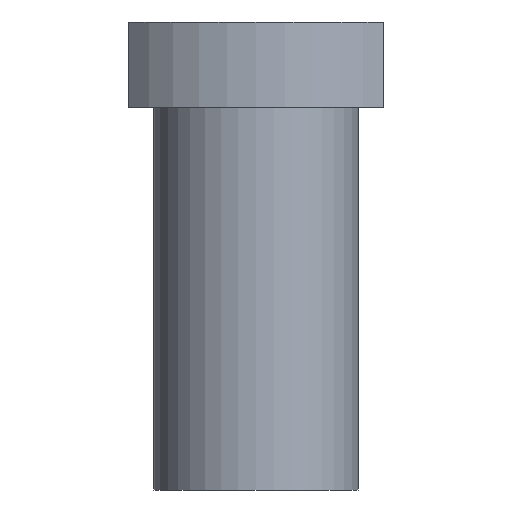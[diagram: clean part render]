
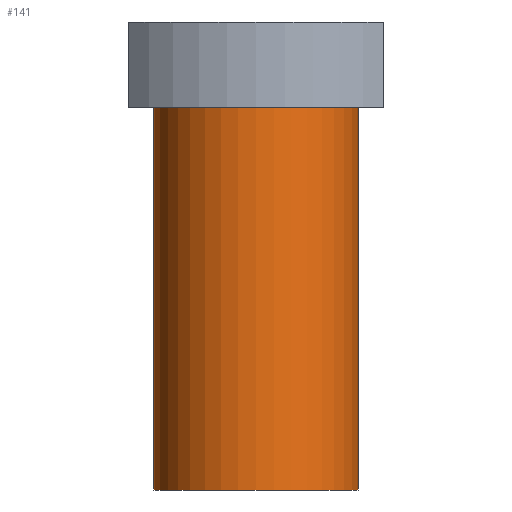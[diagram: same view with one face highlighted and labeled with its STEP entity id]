
A CAD part, front view. The second image highlights one B-rep face of the part: STEP entity #141.
In plain terms, the highlighted cylindrical face has radius 12 mm (diameter 24 mm), a full revolution.
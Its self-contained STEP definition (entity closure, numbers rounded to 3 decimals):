
#21 = EDGE_CURVE('',#22,#24,#26,.T.);
#22 = VERTEX_POINT('',#23);
#23 = CARTESIAN_POINT('',(0.,12.,-32.5));
#24 = VERTEX_POINT('',#25);
#25 = CARTESIAN_POINT('',(12.,0.,-32.5));
#26 = SURFACE_CURVE('',#27,(#32,#44),.PCURVE_S1.);
#27 = CIRCLE('',#28,12.);
#28 = AXIS2_PLACEMENT_3D('',#29,#30,#31);
#29 = CARTESIAN_POINT('',(0.,0.,-32.5));
#30 = DIRECTION('',(0.,0.,-1.));
#31 = DIRECTION('',(0.,1.,0.));
#32 = PCURVE('',#33,#38);
#33 = PLANE('',#34);
#34 = AXIS2_PLACEMENT_3D('',#35,#36,#37);
#35 = CARTESIAN_POINT('',(0.,0.,-32.5));
#36 = DIRECTION('',(0.,0.,-1.));
#37 = DIRECTION('',(-1.,0.,0.));
#38 = DEFINITIONAL_REPRESENTATION('',(#39),#43);
#39 = CIRCLE('',#40,12.);
#40 = AXIS2_PLACEMENT_2D('',#41,#42);
#41 = CARTESIAN_POINT('',(0.,0.));
#42 = DIRECTION('',(0.,1.));
#43 = ( GEOMETRIC_REPRESENTATION_CONTEXT(2) 
PARAMETRIC_REPRESENTATION_CONTEXT() REPRESENTATION_CONTEXT('2D SPACE',''
  ) );
#44 = PCURVE('',#45,#50);
#45 = CYLINDRICAL_SURFACE('',#46,12.);
#46 = AXIS2_PLACEMENT_3D('',#47,#48,#49);
#47 = CARTESIAN_POINT('',(0.,0.,0.));
#48 = DIRECTION('',(0.,0.,-1.));
#49 = DIRECTION('',(-1.,0.,0.));
#50 = DEFINITIONAL_REPRESENTATION('',(#51),#55);
#51 = LINE('',#52,#53);
#52 = CARTESIAN_POINT('',(1.571,32.5));
#53 = VECTOR('',#54,1.);
#54 = DIRECTION('',(1.,0.));
#55 = ( GEOMETRIC_REPRESENTATION_CONTEXT(2) 
PARAMETRIC_REPRESENTATION_CONTEXT() REPRESENTATION_CONTEXT('2D SPACE',''
  ) );
#57 = EDGE_CURVE('',#24,#22,#58,.T.);
#58 = SURFACE_CURVE('',#59,(#64,#71),.PCURVE_S1.);
#59 = CIRCLE('',#60,12.);
#60 = AXIS2_PLACEMENT_3D('',#61,#62,#63);
#61 = CARTESIAN_POINT('',(0.,0.,-32.5));
#62 = DIRECTION('',(0.,0.,-1.));
#63 = DIRECTION('',(0.,1.,0.));
#64 = PCURVE('',#33,#65);
#65 = DEFINITIONAL_REPRESENTATION('',(#66),#70);
#66 = CIRCLE('',#67,12.);
#67 = AXIS2_PLACEMENT_2D('',#68,#69);
#68 = CARTESIAN_POINT('',(0.,0.));
#69 = DIRECTION('',(0.,1.));
#70 = ( GEOMETRIC_REPRESENTATION_CONTEXT(2) 
PARAMETRIC_REPRESENTATION_CONTEXT() REPRESENTATION_CONTEXT('2D SPACE',''
  ) );
#71 = PCURVE('',#45,#72);
#72 = DEFINITIONAL_REPRESENTATION('',(#73),#77);
#73 = LINE('',#74,#75);
#74 = CARTESIAN_POINT('',(-4.712,32.5));
#75 = VECTOR('',#76,1.);
#76 = DIRECTION('',(1.,0.));
#77 = ( GEOMETRIC_REPRESENTATION_CONTEXT(2) 
PARAMETRIC_REPRESENTATION_CONTEXT() REPRESENTATION_CONTEXT('2D SPACE',''
  ) );
#141 = ADVANCED_FACE('',(#142),#45,.T.);
#142 = FACE_BOUND('',#143,.T.);
#143 = EDGE_LOOP('',(#144,#145,#146,#169,#196));
#144 = ORIENTED_EDGE('',*,*,#21,.F.);
#145 = ORIENTED_EDGE('',*,*,#57,.F.);
#146 = ORIENTED_EDGE('',*,*,#147,.T.);
#147 = EDGE_CURVE('',#24,#148,#150,.T.);
#148 = VERTEX_POINT('',#149);
#149 = CARTESIAN_POINT('',(12.,0.,12.5));
#150 = SEAM_CURVE('',#151,(#155,#162),.PCURVE_S1.);
#151 = LINE('',#152,#153);
#152 = CARTESIAN_POINT('',(12.,0.,0.));
#153 = VECTOR('',#154,1.);
#154 = DIRECTION('',(0.,0.,1.));
#155 = PCURVE('',#45,#156);
#156 = DEFINITIONAL_REPRESENTATION('',(#157),#161);
#157 = LINE('',#158,#159);
#158 = CARTESIAN_POINT('',(-3.142,0.));
#159 = VECTOR('',#160,1.);
#160 = DIRECTION('',(0.,-1.));
#161 = ( GEOMETRIC_REPRESENTATION_CONTEXT(2) 
PARAMETRIC_REPRESENTATION_CONTEXT() REPRESENTATION_CONTEXT('2D SPACE',''
  ) );
#162 = PCURVE('',#45,#163);
#163 = DEFINITIONAL_REPRESENTATION('',(#164),#168);
#164 = LINE('',#165,#166);
#165 = CARTESIAN_POINT('',(3.142,0.));
#166 = VECTOR('',#167,1.);
#167 = DIRECTION('',(0.,-1.));
#168 = ( GEOMETRIC_REPRESENTATION_CONTEXT(2) 
PARAMETRIC_REPRESENTATION_CONTEXT() REPRESENTATION_CONTEXT('2D SPACE',''
  ) );
#169 = ORIENTED_EDGE('',*,*,#170,.T.);
#170 = EDGE_CURVE('',#148,#148,#171,.T.);
#171 = SURFACE_CURVE('',#172,(#177,#184),.PCURVE_S1.);
#172 = CIRCLE('',#173,12.);
#173 = AXIS2_PLACEMENT_3D('',#174,#175,#176);
#174 = CARTESIAN_POINT('',(0.,0.,12.5));
#175 = DIRECTION('',(0.,0.,-1.));
#176 = DIRECTION('',(-1.,0.,0.));
#177 = PCURVE('',#45,#178);
#178 = DEFINITIONAL_REPRESENTATION('',(#179),#183);
#179 = LINE('',#180,#181);
#180 = CARTESIAN_POINT('',(-6.283,-12.5));
#181 = VECTOR('',#182,1.);
#182 = DIRECTION('',(1.,0.));
#183 = ( GEOMETRIC_REPRESENTATION_CONTEXT(2) 
PARAMETRIC_REPRESENTATION_CONTEXT() REPRESENTATION_CONTEXT('2D SPACE',''
  ) );
#184 = PCURVE('',#185,#190);
#185 = PLANE('',#186);
#186 = AXIS2_PLACEMENT_3D('',#187,#188,#189);
#187 = CARTESIAN_POINT('',(0.,0.,12.5));
#188 = DIRECTION('',(0.,0.,-1.));
#189 = DIRECTION('',(-1.,0.,0.));
#190 = DEFINITIONAL_REPRESENTATION('',(#191),#195);
#191 = CIRCLE('',#192,12.);
#192 = AXIS2_PLACEMENT_2D('',#193,#194);
#193 = CARTESIAN_POINT('',(0.,0.));
#194 = DIRECTION('',(1.,0.));
#195 = ( GEOMETRIC_REPRESENTATION_CONTEXT(2) 
PARAMETRIC_REPRESENTATION_CONTEXT() REPRESENTATION_CONTEXT('2D SPACE',''
  ) );
#196 = ORIENTED_EDGE('',*,*,#147,.F.);
